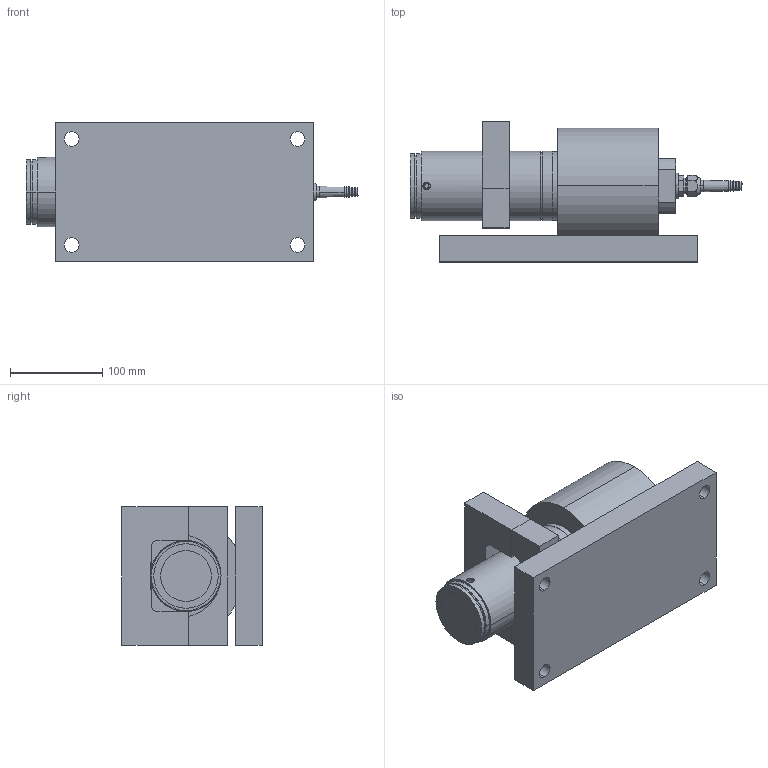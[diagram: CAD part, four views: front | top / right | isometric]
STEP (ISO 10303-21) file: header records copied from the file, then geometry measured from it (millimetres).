
FILE_DESCRIPTION (( 'STEP AP214' ), '1' );
FILE_NAME ('KIS-1 50 kN Module.STEP', '2021-06-30T13:42:55', ( '' ), ( '' ), 'SwSTEP 2.0', 'SolidWorks 2021', '' );
FILE_SCHEMA (( 'AUTOMOTIVE_DESIGN' ));
Length unit declared in the file: millimetre
Products named in the file (11): M26x1.5 - Pg9 - 6369829_ursvarvat; 5178692r2; 5 196 891r1; 3053864r1_Default<As Machined>; Tätning Hylsa Silikon^1157652 - KIS-1 50kN - Rostfri; 5178675r1; 4 095 993r4; pg 9 kabelförskruvning; Wiberger-frp_A2_8x20; 1157652 - KIS-1 50kN - Rostfri; KIS-1 50 kN Module
Assembly tree (10 placements, depth 3):
  KIS-1 50 kN Module
    1157652 - KIS-1 50kN - Rostfri
      4 095 993r4
      5 196 891r1
      Tätning Hylsa Silikon^1157652 - KIS-1 50kN - Rostfri
      pg 9 kabelförskruvning
      Wiberger-frp_A2_8x20
      M26x1.5 - Pg9 - 6369829_ursvarvat
    3053864r1_Default<As Machined>
    5178692r2
    5178675r1
Bounding box: 360 x 152 x 150 mm (x, y, z)
Volume: 3535180.3 mm3; surface area: 419312.9 mm2
Topology: 10 solids, 13 shells, 487 faces, 1189 edges, 765 vertices
Faces by surface type: plane 227, cylinder 134, bspline 58, cone 56, torus 12
Entity records: 20300 total; most frequent: CARTESIAN_POINT 5650, ORIENTED_EDGE 2374, DIRECTION 2349, EDGE_CURVE 1187, AXIS2_PLACEMENT_3D 829, VERTEX_POINT 765, LINE 691, VECTOR 691
